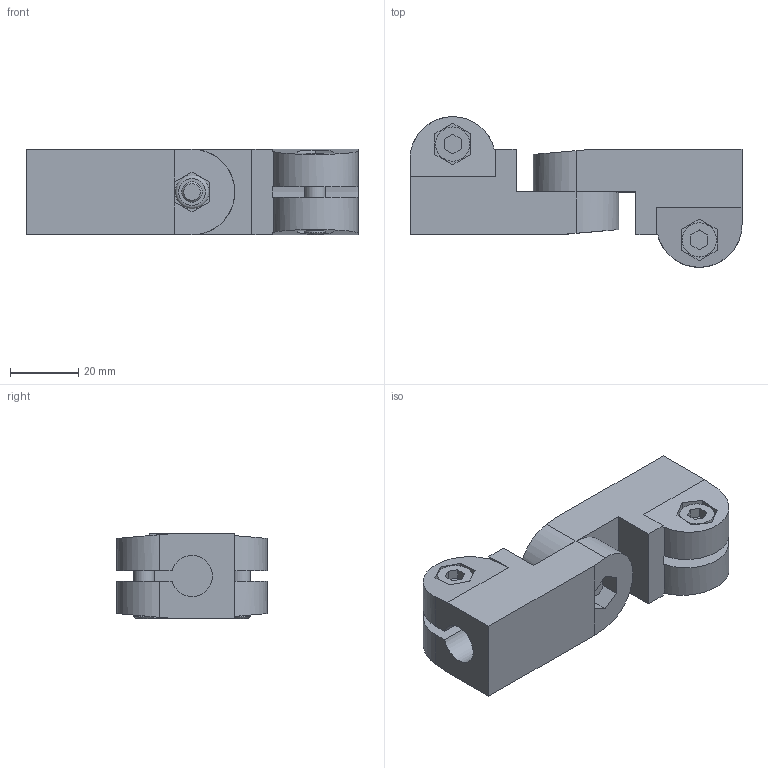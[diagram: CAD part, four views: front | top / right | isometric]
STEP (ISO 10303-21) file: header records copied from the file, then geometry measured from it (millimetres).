
FILE_DESCRIPTION( ( 'STEP AP203' ), '1' );
FILE_NAME( 'C:/Temp/Ganter_Step_05_03_2020/data/3_7/285/Swivel clamp connector joint GN 285-B12-B18-2-SW (0).stp', '2020-03-12T14:32:43', ( 'License CC BY-ND 4.0' ), ( 'CADENAS' ), ' ', 'PARTsolutions', ' ' );
FILE_SCHEMA( ( 'CONFIG_CONTROL_DESIGN' ) );
Length unit declared in the file: millimetre
Products named in the file (5): Swivel clamp connector joint GN 285-B12-B18-2-SW (0); _Swivel clamp connector base GN 285-B12-B18-2-SW-1; _Swivel clamp connector base GN 285-B12-B18-2-SW (0)-2; _Screw GN 285-M6-2; _Nut GN 285-M6-1
Assembly tree (4 placements, depth 2):
  Swivel clamp connector joint GN 285-B12-B18-2-SW (0)
    _Swivel clamp connector base GN 285-B12-B18-2-SW-1
    _Swivel clamp connector base GN 285-B12-B18-2-SW (0)-2
    _Screw GN 285-M6-2
    _Nut GN 285-M6-1
Bounding box: 97 x 44 x 25 mm (x, y, z)
Volume: 51009.4 mm3; surface area: 20854.3 mm2
Topology: 4 solids, 4 shells, 160 faces, 394 edges, 260 vertices
Faces by surface type: plane 126, cylinder 24, cone 8, torus 2
Full cylindrical faces by diameter (mm): 4.917 x1, 6 x5, 6.5 x2, 7 x4, 9.84 x1, 10 x3
Entity records: 4738 total; most frequent: CARTESIAN_POINT 886, DIRECTION 734, ORIENTED_EDGE 720, EDGE_CURVE 360, LINE 292, VECTOR 292, VERTEX_POINT 253, AXIS2_PLACEMENT_3D 221
